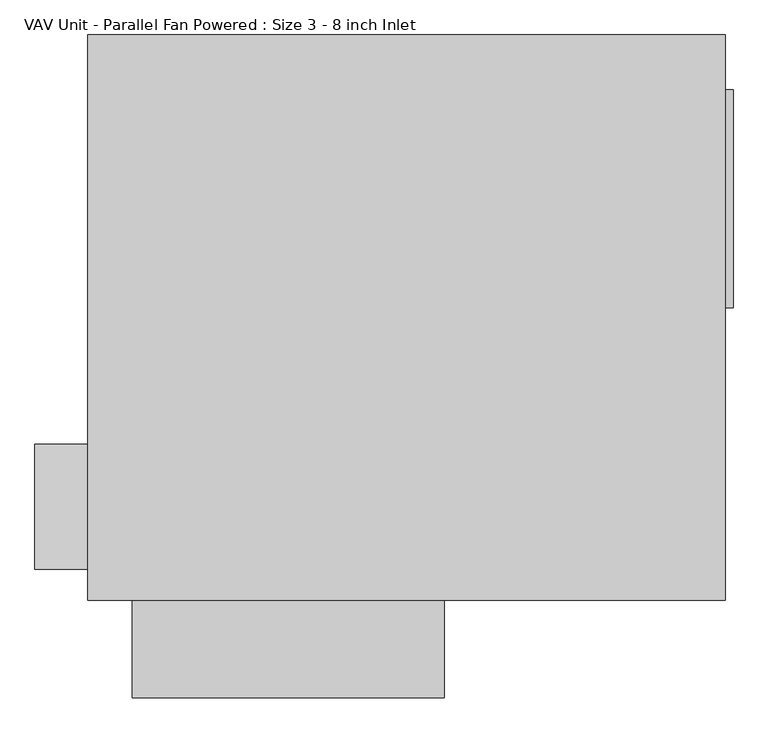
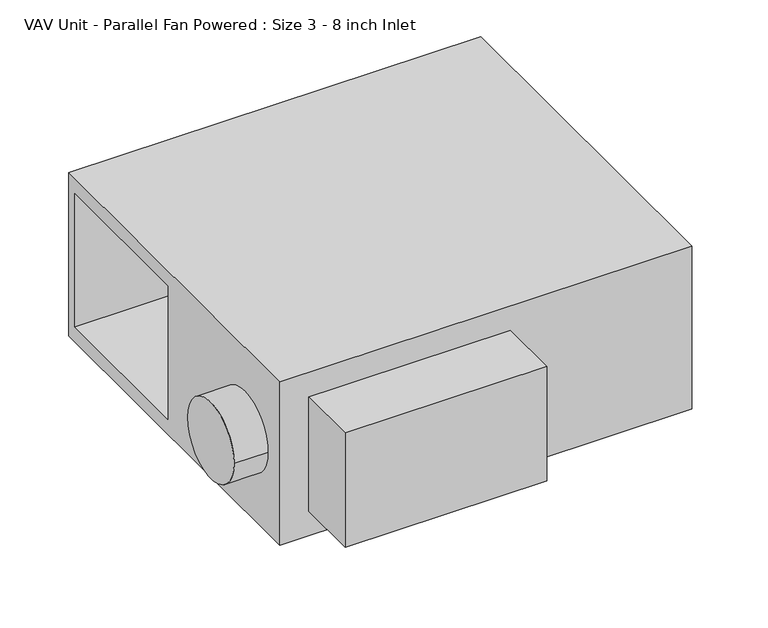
"""IFC4 building model written with IfcOpenShell, lengths in millimetres: proxy geometry, VAV Unit - Parallel Fan Powered : Size 3 - 8 inch Inlet."""

from ifc_helpers import new_model, si_unit, point, frame, frame_2d, origin, place, context, project, spatial, polyline, circle_curve, trimmed, segment, composite_curve, outline, extrude, faceted_brep, source, transform, mapped, element, save


def vav_unit_parallel_fan_powered_size_3_8_inch_inlet_9de80a88(model_context):
    return source(origin(), model_context, "Body", "SolidModel", [
        extrude(outline(polyline([(531.8125, 15.875), (519.1125, 15.875), (519.1125, 371.475), (531.8125, 371.475), (531.8125, 15.875)])), frame((0.0, 0.0, -139.7), z_axis=(0.0, 0.0, 1.0), x_axis=(1.0, 0.0, 0.0)), (0.0, 0.0, 1.0), 279.4),
        extrude(outline(polyline([(61.9125, -460.375), (61.9125, -619.125), (-446.0875, -619.125), (-446.0875, -460.375), (61.9125, -460.375)])), frame((0.0, 0.0, -152.4), z_axis=(0.0, 0.0, 1.0), x_axis=(1.0, 0.0, 0.0)), (0.0, 0.0, 1.0), 304.8),
        extrude(outline(composite_curve([segment(trimmed(circle_curve(frame_2d((-307.975, 0.0)), 101.6), [point((-206.375, 0.0))], [point((-409.575, 0.0))], False, "CARTESIAN"), True, "CONTINUOUS"), segment(trimmed(circle_curve(frame_2d((-307.975, 0.0)), 101.6), [point((-409.575, 0.0))], [point((-206.375, 0.0))], False, "CARTESIAN"), True, "CONTINUOUS")], self_intersect=False)), frame((-604.8375, 0.0, 0.0), z_axis=(1.0, 0.0, 0.0), x_axis=(0.0, 1.0, 0.0)), (0.0, 0.0, 1.0), 85.725),
        faceted_brep([(519.1125, -460.375, 217.4875), (519.1125, 460.375, 217.4875), (-519.1125, 460.375, 217.4875), (-519.1125, -460.375, 217.4875), (519.1125, -460.375, -217.4875), (-519.1125, -460.375, -217.4875), (-519.1125, 460.375, -217.4875), (519.1125, 460.375, -217.4875), (-519.1125, 434.975, 177.8), (-519.1125, 28.575, 177.8), (-519.1125, 28.575, -177.8), (-519.1125, 434.975, -177.8), (0.0, 434.975, 177.8), (0.0, 434.975, -177.8), (0.0, 28.575, -177.8), (0.0, 28.575, 177.8)], [[[0, 1, 2, 3]], [[4, 5, 6, 7]], [[3, 5, 4, 0]], [[2, 6, 5, 3], [8, 9, 10, 11]], [[1, 7, 6, 2]], [[0, 4, 7, 1]], [[12, 13, 14, 15]], [[12, 8, 11, 13]], [[13, 11, 10, 14]], [[14, 10, 9, 15]], [[15, 9, 8, 12]]]),
    ])


if __name__ == "__main__":
    model = new_model("IFC4")
    model_context = context("Model", 3, world=origin())
    ifc_project = project(units=[si_unit("LENGTHUNIT", "METRE", prefix="MILLI")], contexts=[model_context])
    site = spatial("IfcSite", under=ifc_project)
    building = spatial("IfcBuilding", under=site)
    placement = place(None, origin())
    vav_unit_parallel_fan_powered_size_3_8_inch_inlet_shape = vav_unit_parallel_fan_powered_size_3_8_inch_inlet_9de80a88(model_context)
    element("IfcBuildingElementProxy", 1, Name="VAV Unit - Parallel Fan Powered : Size 3 - 8 inch Inlet", ObjectType="VAV Unit - Parallel Fan Powered : Size 3 - 8 inch Inlet", at=placement, inside=building, context=model_context, shape_type="MappedRepresentation", body=[
        mapped(vav_unit_parallel_fan_powered_size_3_8_inch_inlet_shape, transform((0.0, 0.0, 0.0), x_axis=(1.0, 0.0, 0.0), y_axis=(0.0, 1.0, 0.0), z_axis=(0.0, 0.0, 1.0))),
    ])
    save(model, "model.ifc")
